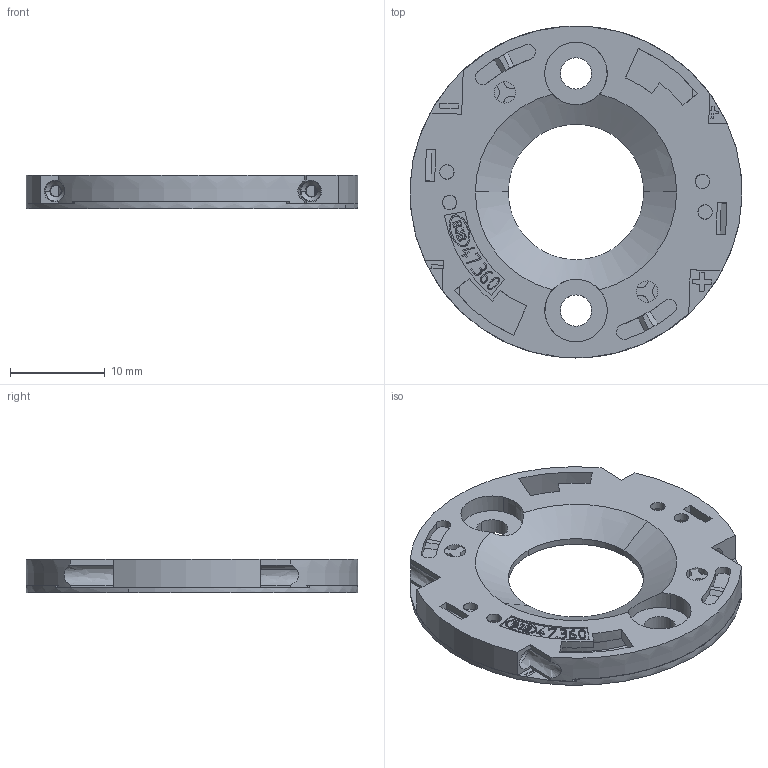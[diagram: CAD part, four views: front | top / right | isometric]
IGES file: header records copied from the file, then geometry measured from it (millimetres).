
Global section: file name: C:\CoreTechnologie\3D-in\01ZYR1SY04.igs; native system: CT CoreTechnologie 3D Evolution; preprocessor: 2006; date: 1180703.113859; units: millimetre
Bounding box: 34.98 x 35 x 3.5 mm (x, y, z)
Volume: 1649.7 mm3; surface area: 4035.5 mm2
Topology: 4 solids, 4 shells, 559 faces, 1570 edges, 1053 vertices
Faces by surface type: plane 355, revolution 170, bspline 34
